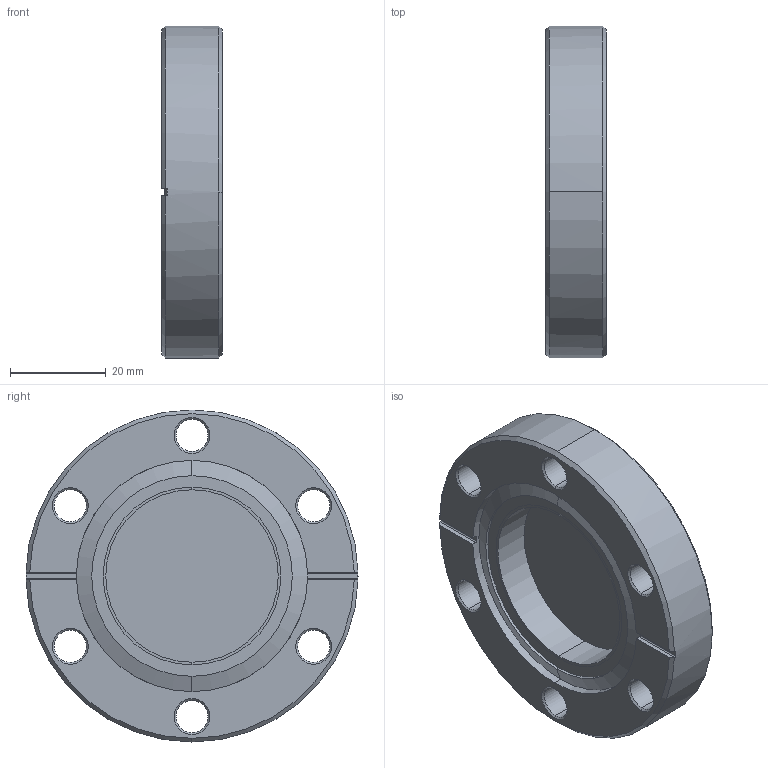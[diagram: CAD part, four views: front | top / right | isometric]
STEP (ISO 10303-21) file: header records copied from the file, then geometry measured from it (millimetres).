
FILE_DESCRIPTION (( 'STEP AP203' ), '1' );
FILE_NAME ('112659.stp', '2022-04-27T19:42:42', ( '' ), ( '' ), 'SwSTEP 2.0', 'SolidWorks 2012', '' );
FILE_SCHEMA (( 'CONFIG_CONTROL_DESIGN' ));
Length unit declared in the file: inch
Products named in the file (1): 112659
Bounding box: 12.7 x 69.34 x 69.34 mm (x, y, z)
Volume: 33400.6 mm3; surface area: 14031 mm2
Topology: 1 solids, 1 shells, 87 faces, 210 edges, 129 vertices
Faces by surface type: cone 35, cylinder 32, plane 18, bspline 2
Entity records: 2704 total; most frequent: CARTESIAN_POINT 539, DIRECTION 461, ORIENTED_EDGE 420, EDGE_CURVE 210, AXIS2_PLACEMENT_3D 187, VERTEX_POINT 129, EDGE_LOOP 103, CIRCLE 101
